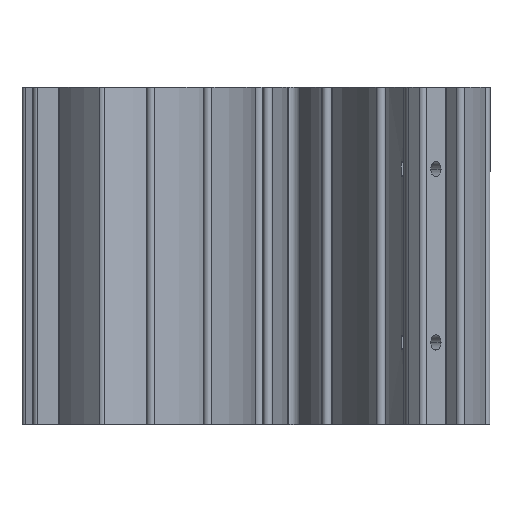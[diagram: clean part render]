
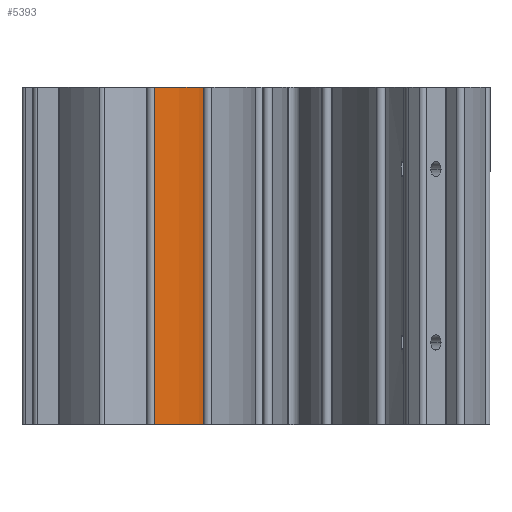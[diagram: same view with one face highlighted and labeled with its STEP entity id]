
A CAD part, top view. The second image highlights one B-rep face of the part: STEP entity #5393.
In plain terms, the highlighted cylindrical face has radius 24 mm (diameter 48 mm), a partial arc.
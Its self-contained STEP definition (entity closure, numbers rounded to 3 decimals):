
#184=CARTESIAN_POINT('',(-25.641,0.,2.965));
#185=DIRECTION('',(0.,1.,0.));
#186=DIRECTION('',(0.63,0.,0.777));
#187=AXIS2_PLACEMENT_3D('',#184,#185,#186);
#754=CARTESIAN_POINT('',(-25.641,35.,2.965));
#755=DIRECTION('',(0.,1.,0.));
#756=DIRECTION('',(0.63,0.,0.777));
#757=AXIS2_PLACEMENT_3D('',#754,#755,#756);
#1826=DIRECTION('',(0.,-1.,0.));
#1827=VECTOR('',#1826,35.);
#1828=CARTESIAN_POINT('',(-10.529,35.,21.61));
#1829=LINE('',#1828,#1827);
#1830=DIRECTION('',(0.,1.,0.));
#1831=VECTOR('',#1830,35.);
#1832=CARTESIAN_POINT('',(-2.834,0.,10.439));
#1833=LINE('',#1832,#1831);
#3046=CARTESIAN_POINT('',(-2.834,0.,10.439));
#3047=CARTESIAN_POINT('',(-2.834,35.,10.439));
#3048=VERTEX_POINT('',#3046);
#3049=VERTEX_POINT('',#3047);
#3406=CARTESIAN_POINT('',(-10.529,0.,21.61));
#3408=VERTEX_POINT('',#3406);
#3412=CARTESIAN_POINT('',(-10.529,35.,21.61));
#3413=VERTEX_POINT('',#3412);
#5381=CARTESIAN_POINT('',(-25.641,0.,2.965));
#5382=DIRECTION('',(0.,1.,0.));
#5383=DIRECTION('',(-0.966,0.,-0.259));
#5384=AXIS2_PLACEMENT_3D('',#5381,#5382,#5383);
#5385=CYLINDRICAL_SURFACE('',#5384,24.);
#5386=ORIENTED_EDGE('',*,*,#3771,.F.);
#5388=ORIENTED_EDGE('',*,*,#5387,.F.);
#5389=ORIENTED_EDGE('',*,*,#4199,.T.);
#5390=ORIENTED_EDGE('',*,*,#5375,.F.);
#5391=EDGE_LOOP('',(#5386,#5388,#5389,#5390));
#5392=FACE_OUTER_BOUND('',#5391,.F.);
#5393=ADVANCED_FACE('',(#5392),#5385,.T.);
#188=CIRCLE('',#187,24.);
#758=CIRCLE('',#757,24.);
#3771=EDGE_CURVE('',#3408,#3048,#188,.T.);
#4199=EDGE_CURVE('',#3413,#3049,#758,.T.);
#5375=EDGE_CURVE('',#3048,#3049,#1833,.T.);
#5387=EDGE_CURVE('',#3413,#3408,#1829,.T.);
